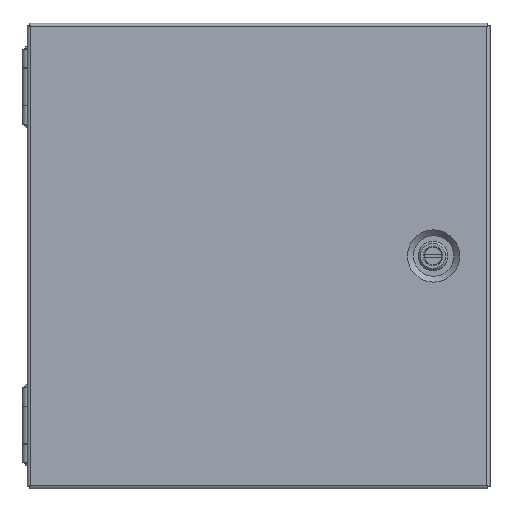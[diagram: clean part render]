
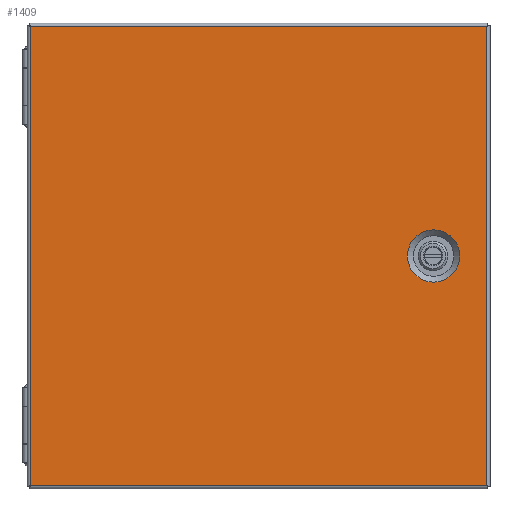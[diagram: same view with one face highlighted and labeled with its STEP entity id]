
A CAD part, top view. The second image highlights one B-rep face of the part: STEP entity #1409.
In plain terms, the highlighted planar face has unit normal (0, 0, 1).
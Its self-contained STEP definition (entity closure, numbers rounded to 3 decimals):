
#1409 = ADVANCED_FACE( '', ( #2880, #2881 ), #2882, .T. );
#2880 = FACE_OUTER_BOUND( '', #4990, .T. );
#2881 = FACE_BOUND( '', #4991, .T. );
#2882 = PLANE( '', #4992 );
#4990 = EDGE_LOOP( '', ( #8642, #8643, #8644, #8645 ) );
#4991 = EDGE_LOOP( '', ( #8646 ) );
#4992 = AXIS2_PLACEMENT_3D( '', #8647, #8648, #8649 );
#8642 = ORIENTED_EDGE( '', *, *, #10208, .T. );
#8643 = ORIENTED_EDGE( '', *, *, #10209, .T. );
#8644 = ORIENTED_EDGE( '', *, *, #10210, .T. );
#8645 = ORIENTED_EDGE( '', *, *, #10211, .T. );
#8646 = ORIENTED_EDGE( '', *, *, #10202, .T. );
#8647 = CARTESIAN_POINT( '', ( 154.026, -155.042, 0. ) );
#8648 = DIRECTION( '', ( 0., 0., 1. ) );
#8649 = DIRECTION( '', ( 1., 0., 0. ) );
#10202 = EDGE_CURVE( '', #12642, #12642, #12643, .T. );
#10208 = EDGE_CURVE( '', #12490, #12506, #12650, .T. );
#10209 = EDGE_CURVE( '', #12506, #12584, #12651, .T. );
#10210 = EDGE_CURVE( '', #12584, #12556, #12652, .T. );
#10211 = EDGE_CURVE( '', #12556, #12490, #12653, .T. );
#12490 = VERTEX_POINT( '', #15878 );
#12506 = VERTEX_POINT( '', #15899 );
#12556 = VERTEX_POINT( '', #15973 );
#12584 = VERTEX_POINT( '', #16023 );
#12642 = VERTEX_POINT( '', #16120 );
#12643 = CIRCLE( '', #16121, 17.65 );
#12650 = LINE( '', #16132, #16133 );
#12651 = LINE( '', #16134, #16135 );
#12652 = LINE( '', #16136, #16137 );
#12653 = LINE( '', #16138, #16139 );
#15878 = CARTESIAN_POINT( '', ( -154.026, -155.042, 0. ) );
#15899 = CARTESIAN_POINT( '', ( 154.026, -155.042, 0. ) );
#15973 = CARTESIAN_POINT( '', ( -154.026, 155.042, 0. ) );
#16023 = CARTESIAN_POINT( '', ( 154.026, 155.042, 0. ) );
#16120 = CARTESIAN_POINT( '', ( 100.46, 0., 0. ) );
#16121 = AXIS2_PLACEMENT_3D( '', #17476, #17477, #17478 );
#16132 = CARTESIAN_POINT( '', ( -154.026, -155.042, 0. ) );
#16133 = VECTOR( '', #17486, 1000. );
#16134 = CARTESIAN_POINT( '', ( 154.026, -155.042, 0. ) );
#16135 = VECTOR( '', #17487, 1000. );
#16136 = CARTESIAN_POINT( '', ( 154.026, 155.042, 0. ) );
#16137 = VECTOR( '', #17488, 1000. );
#16138 = CARTESIAN_POINT( '', ( -154.026, 155.042, 0. ) );
#16139 = VECTOR( '', #17489, 1000. );
#17476 = CARTESIAN_POINT( '', ( 118.11, 0., 0. ) );
#17477 = DIRECTION( '', ( 0., 0., -1. ) );
#17478 = DIRECTION( '', ( -1., 0., 0. ) );
#17486 = DIRECTION( '', ( 1., 0., 0. ) );
#17487 = DIRECTION( '', ( 0., 1., 0. ) );
#17488 = DIRECTION( '', ( -1., 0., 0. ) );
#17489 = DIRECTION( '', ( 0., -1., 0. ) );
